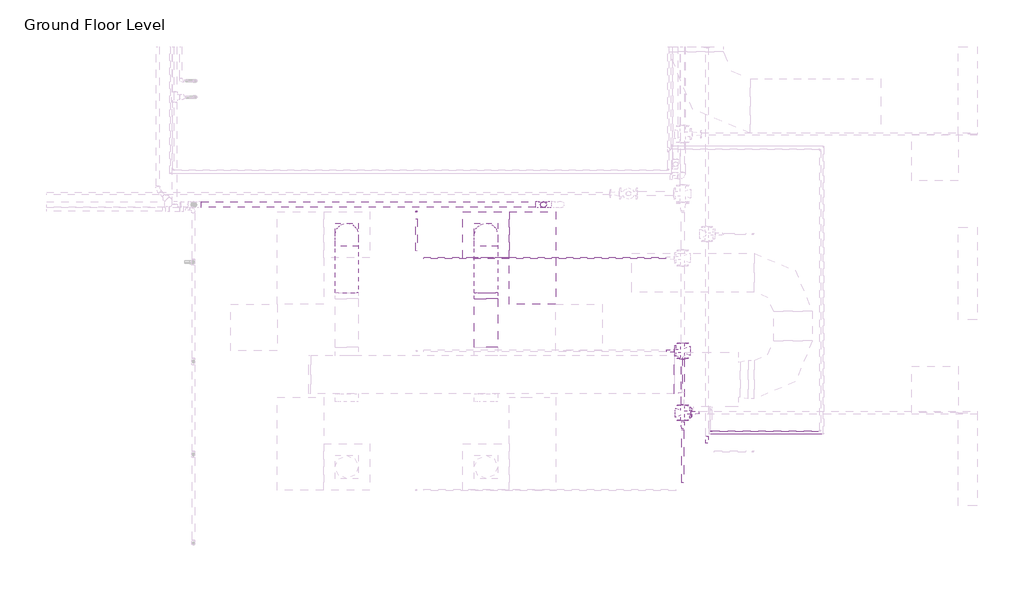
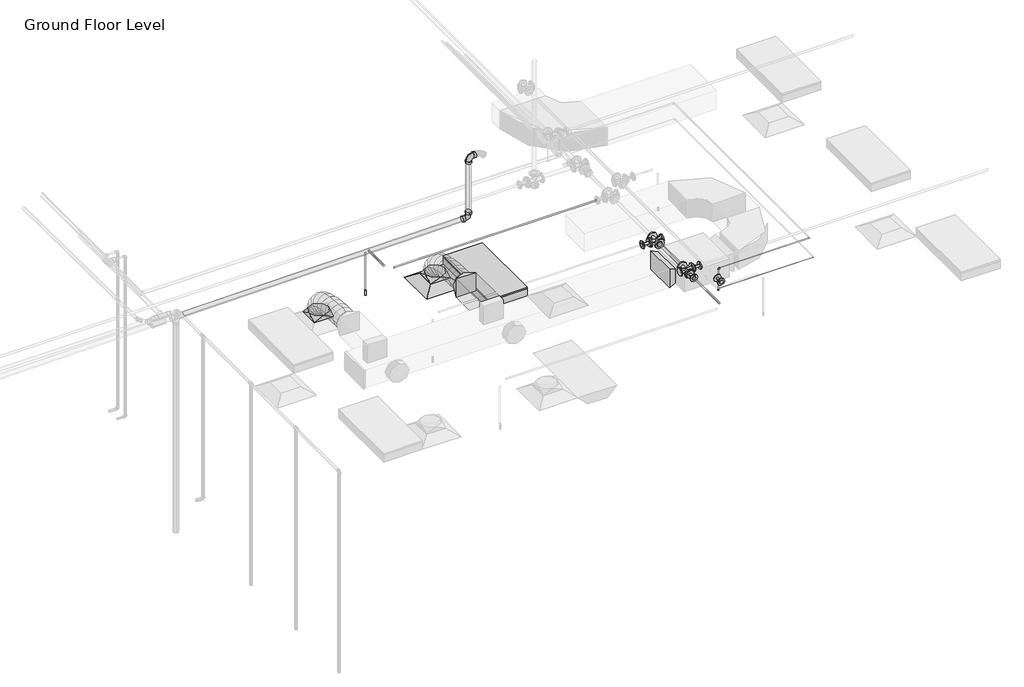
# One storey, part 15 of 75: 10 pipe fittings, 10 pipe segments, 4 duct fittings, 3 duct segments, 1 air terminal, 1 fire suppression terminal, 1 light fixture.
"""IFC4 building model written with IfcOpenShell, lengths in millimetres."""

from ifc_helpers import new_model, si_unit, point, frame, frame_2d, origin, place, context, project, spatial, polyline, circle_curve, ellipse_curve, trimmed, segment, composite_curve, outline, extrude, transform, mapped, element, save
from ifc_brep_helpers import plane_surface, cylinder_surface, advanced_brep
from components import m_return_diffuser_600_x_600_face_300_x_300_connection_ff221211, m_rectangular_transition_angle_45_degree_2b595dfe, m_rectangular_to_round_transition_angle_45_degree_641efff0, m_sprinkler_dry_pendent_hosted_15_mm_dry_pendent_9bda8e11, m_troffer_light_parabolic_rectangular1_0600x1200mm_4_lamp_86473d4a, m_bend_pvc_sch_40_dwv_standard_0eeb11e1, m_bend_pvc_sch_40_dwv_standard_cec44c9e, m_elbow_generic_standard_a088f956, m_reducer_flanged_cs_class_150_standard_b6b67c23, m_reducer_flanged_cs_class_150_standard_ccf252ad, m_reducer_flanged_cs_class_150_standard_cc2a7c1d, m_reducer_flanged_cs_class_150_standard_678fb8eb, m_tee_round_base_flanged_cs_class_150_standard_9c9133d0

model = new_model("IFC4")

# Units and contexts
model_context = context("Model", 3, world=origin())
ifc_project = project(units=[si_unit("LENGTHUNIT", "METRE", prefix="MILLI")], contexts=[model_context])

# Site, building, storey
site = spatial("IfcSite", under=ifc_project)
building = spatial("IfcBuilding", under=site)
storey = spatial("IfcBuildingStorey", under=building, Name="Ground Floor Level", Elevation=900.0)

# Air terminal
placement = place(None, origin())
m_return_diffuser_600_x_600_face_300_x_300_connection_shape = m_return_diffuser_600_x_600_face_300_x_300_connection_ff221211(model_context)
element("IfcAirTerminal", 1, ObjectType="M_Supply Diffuser : 600 x 600 Face 300 x 300 Connection", at=placement, inside=storey, context=model_context, shape_type="MappedRepresentation", body=[
    mapped(m_return_diffuser_600_x_600_face_300_x_300_connection_shape, transform((3142.7672394, -36564.7846466, 3650.0), x_axis=(1.0, 0.0, 0.0), y_axis=(0.0, 1.0, 0.0), z_axis=(0.0, 0.0, 1.0))),
])

# Duct fittings
m_rectangular_transition_angle_45_degree_shape = m_rectangular_transition_angle_45_degree_2b595dfe(model_context)
element("IfcDuctFitting", 2, ObjectType="M_Rectangular Transition - Angle : 45 Degree", at=placement, inside=storey, context=model_context, shape_type="MappedRepresentation", body=[
    mapped(m_rectangular_transition_angle_45_degree_shape, transform((5677.3672394, -38372.6128682, 4100.0), x_axis=(-1.0, 0.0, 0.0), y_axis=(0.0, -1.0, 0.0), z_axis=(0.0, 0.0, 1.0))),
])
m_rectangular_to_round_transition_angle_45_degree_shape = m_rectangular_to_round_transition_angle_45_degree_641efff0(model_context)
element("IfcDuctFitting", 3, ObjectType="M_Rectangular to Round Transition - Angle : 45 Degree", at=placement, inside=storey, context=model_context, shape_type="MappedRepresentation", body=[
    mapped(m_rectangular_to_round_transition_angle_45_degree_shape, transform((3142.7672394, -36564.7846466, 3751.6), x_axis=(0.0, 0.0, 1.0), y_axis=(-1.0, 0.0, 0.0), z_axis=(0.0, -1.0, 0.0))),
])
element("IfcDuctFitting", 4, ObjectType="M_Rectangular to Round Transition - Angle : 45 Degree", at=placement, inside=storey, context=model_context, shape_type="MappedRepresentation", body=[
    mapped(m_rectangular_to_round_transition_angle_45_degree_shape, transform((3142.7672394, -37392.1205779, 4100.0), x_axis=(0.0, 1.0, 0.0), y_axis=(-1.0, 0.0, 0.0), z_axis=(0.0, 0.0, 1.0))),
])
element("IfcDuctFitting", 5, ObjectType="M_Rectangular to Round Transition - Angle : 45 Degree", at=placement, inside=storey, context=model_context, shape_type="MappedRepresentation", body=[
    mapped(m_rectangular_to_round_transition_angle_45_degree_shape, transform((1342.7672394, -36564.7846466, 3751.6), x_axis=(0.0, 0.0, 1.0), y_axis=(-1.0, 0.0, 0.0), z_axis=(0.0, -1.0, 0.0))),
])

# Duct segments
element("IfcDuctSegment", 6, ObjectType="Flex - Round", at=placement, inside=storey, context=model_context, shape_type="AdvancedBrep", body=[
    advanced_brep(
    [(3292.7672394, -36564.7846466, 3826.6), (3142.7672394, -36714.7846466, 3826.6), (2992.7672394, -36564.7846466, 3826.6), (3142.7672394, -36414.7846466, 3826.6), (3292.7672394, -36564.7846466, 3857.9377114), (3142.7672394, -36714.7846466, 3832.2944892), (2992.7672394, -36564.7846466, 3857.9377114), (3142.7672394, -36414.7846466, 3883.5809337), (3292.7672394, -36581.8005792, 3906.2505728), (3142.7672394, -36715.5385581, 3834.435049), (2992.7672394, -36581.8005792, 3906.2505728), (3142.7672394, -36448.0626002, 3978.0660967), (3292.7672394, -36628.9844595, 3968.7113131), (3142.7672394, -36733.1903588, 3857.8020236), (2992.7672394, -36628.9844595, 3968.7113131), (3142.7672394, -36524.7785603, 4079.6206026), (3292.7672394, -36700.5404117, 4016.0700639), (3142.7672394, -36769.4744673, 3881.8163788), (2992.7672394, -36700.5404117, 4016.0700639), (3142.7672394, -36631.6063561, 4150.3237489), (3292.7672394, -36790.6725597, 4050.4146682), (3142.7672394, -36834.2333229, 3906.4925606), (2992.7672394, -36790.6725597, 4050.4146682), (3142.7672394, -36747.1117965, 4194.3367758), (3292.7672394, -36893.5850275, 4073.8329691), (3142.7672394, -36920.1459515, 3926.0424542), (2992.7672394, -36893.5850275, 4073.8329691), (3142.7672394, -36867.0241035, 4221.6234841), (3292.7672394, -37003.4819393, 4088.4128097), (3142.7672394, -37018.6328416, 3939.1085462), (2992.7672394, -37003.4819393, 4088.4128097), (3142.7672394, -36988.3310369, 4237.7170733), (3292.7672394, -37114.5674189, 4096.242033), (3142.7672394, -37122.0727471, 3946.398915), (2992.7672394, -37114.5674189, 4096.242033), (3142.7672394, -37107.0620907, 4246.085151), (3292.7672394, -37221.0455904, 4099.4084821), (3142.7672394, -37223.7370835, 3949.4222102), (2992.7672394, -37221.0455904, 4099.4084821), (3142.7672394, -37218.3540973, 4249.394754), (3292.7672394, -37317.1205779, 4100.0), (3142.7672394, -37316.1970701, 4249.9971571), (2992.7672394, -37317.1205779, 4100.0), (3142.7672394, -37318.0440857, 3950.0028429)],
    [
        (0, 1, circle_curve(frame((3142.7672394, -36564.7846466, 3826.6), z_axis=(0.0, 0.0, -1.0), x_axis=(1.0, 0.0, 0.0)), 150.0)),
        (1, 2, circle_curve(frame((3142.7672394, -36564.7846466, 3826.6), z_axis=(0.0, 0.0, -1.0), x_axis=(1.0, 0.0, 0.0)), 150.0)),
        (2, 3, circle_curve(frame((3142.7672394, -36564.7846466, 3826.6), z_axis=(0.0, 0.0, -1.0), x_axis=(1.0, 0.0, 0.0)), 150.0)),
        (3, 0, circle_curve(frame((3142.7672394, -36564.7846466, 3826.6), z_axis=(0.0, 0.0, -1.0), x_axis=(1.0, 0.0, 0.0)), 150.0)),
        (0, 4),
        (4, 5, ellipse_curve(frame((3142.7672394, -36564.7846466, 3857.9377114), z_axis=(0.0, 0.16851014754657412, -0.9856999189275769), x_axis=(0.0, -0.9856999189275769, -0.16851014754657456)), 152.176131, 150.0)),
        (5, 1),
        (5, 6, ellipse_curve(frame((3142.7672394, -36564.7846466, 3857.9377114), z_axis=(0.0, 0.16851014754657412, -0.9856999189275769), x_axis=(0.0, -0.9856999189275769, -0.16851014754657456)), 152.176131, 150.0)),
        (6, 2),
        (6, 7, ellipse_curve(frame((3142.7672394, -36564.7846466, 3857.9377114), z_axis=(0.0, 0.16851014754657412, -0.9856999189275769), x_axis=(0.0, -0.9856999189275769, -0.16851014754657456)), 152.176131, 150.0)),
        (7, 3),
        (7, 4, ellipse_curve(frame((3142.7672394, -36564.7846466, 3857.9377114), z_axis=(0.0, 0.16851014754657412, -0.9856999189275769), x_axis=(0.0, -0.9856999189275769, -0.16851014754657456)), 152.176131, 150.0)),
        (4, 8),
        (8, 9, ellipse_curve(frame((3142.7672394, -36581.8005792, 3906.2505728), z_axis=(0.0, 0.47309225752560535, -0.881012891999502), x_axis=(0.0, -0.8810128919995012, -0.473092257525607)), 151.8002519, 150.0)),
        (9, 5),
        (9, 10, ellipse_curve(frame((3142.7672394, -36581.8005792, 3906.2505728), z_axis=(0.0, 0.47309225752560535, -0.881012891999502), x_axis=(0.0, -0.8810128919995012, -0.473092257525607)), 151.8002519, 150.0)),
        (10, 6),
        (10, 11, ellipse_curve(frame((3142.7672394, -36581.8005792, 3906.2505728), z_axis=(0.0, 0.47309225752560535, -0.881012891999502), x_axis=(0.0, -0.8810128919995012, -0.473092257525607)), 151.8002519, 150.0)),
        (11, 7),
        (11, 8, ellipse_curve(frame((3142.7672394, -36581.8005792, 3906.2505728), z_axis=(0.0, 0.47309225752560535, -0.881012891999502), x_axis=(0.0, -0.8810128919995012, -0.473092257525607)), 151.8002519, 150.0)),
        (8, 12),
        (12, 13, ellipse_curve(frame((3142.7672394, -36628.9844595, 3968.7113131), z_axis=(0.0, 0.7287877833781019, -0.6847396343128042), x_axis=(0.0, -0.6847396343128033, -0.7287877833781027)), 152.1832446, 150.0)),
        (13, 9),
        (13, 14, ellipse_curve(frame((3142.7672394, -36628.9844595, 3968.7113131), z_axis=(0.0, 0.7287877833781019, -0.6847396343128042), x_axis=(0.0, -0.6847396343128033, -0.7287877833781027)), 152.1832446, 150.0)),
        (14, 10),
        (14, 15, ellipse_curve(frame((3142.7672394, -36628.9844595, 3968.7113131), z_axis=(0.0, 0.7287877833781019, -0.6847396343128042), x_axis=(0.0, -0.6847396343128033, -0.7287877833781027)), 152.1832446, 150.0)),
        (15, 11),
        (15, 12, ellipse_curve(frame((3142.7672394, -36628.9844595, 3968.7113131), z_axis=(0.0, 0.7287877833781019, -0.6847396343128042), x_axis=(0.0, -0.6847396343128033, -0.7287877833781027)), 152.1832446, 150.0)),
        (12, 16),
        (16, 17, ellipse_curve(frame((3142.7672394, -36700.5404117, 4016.0700639), z_axis=(0.0, 0.8895859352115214, -0.45676784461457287), x_axis=(0.0, -0.4567678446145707, -0.8895859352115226)), 150.91705, 150.0)),
        (17, 13),
        (17, 18, ellipse_curve(frame((3142.7672394, -36700.5404117, 4016.0700639), z_axis=(0.0, 0.8895859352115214, -0.45676784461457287), x_axis=(0.0, -0.4567678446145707, -0.8895859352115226)), 150.91705, 150.0)),
        (18, 14),
        (18, 19, ellipse_curve(frame((3142.7672394, -36700.5404117, 4016.0700639), z_axis=(0.0, 0.8895859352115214, -0.45676784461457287), x_axis=(0.0, -0.4567678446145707, -0.8895859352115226)), 150.91705, 150.0)),
        (19, 15),
        (19, 16, ellipse_curve(frame((3142.7672394, -36700.5404117, 4016.0700639), z_axis=(0.0, 0.8895859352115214, -0.45676784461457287), x_axis=(0.0, -0.4567678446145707, -0.8895859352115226)), 150.91705, 150.0)),
        (16, 20),
        (20, 21, ellipse_curve(frame((3142.7672394, -36790.6725597, 4050.4146682), z_axis=(0.0, 0.9571203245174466, -0.28969067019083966), x_axis=(0.0, -0.2896906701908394, -0.9571203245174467)), 150.369921, 150.0)),
        (21, 17),
        (21, 22, ellipse_curve(frame((3142.7672394, -36790.6725597, 4050.4146682), z_axis=(0.0, 0.9571203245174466, -0.28969067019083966), x_axis=(0.0, -0.2896906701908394, -0.9571203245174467)), 150.369921, 150.0)),
        (22, 18),
        (22, 23, ellipse_curve(frame((3142.7672394, -36790.6725597, 4050.4146682), z_axis=(0.0, 0.9571203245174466, -0.28969067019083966), x_axis=(0.0, -0.2896906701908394, -0.9571203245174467)), 150.369921, 150.0)),
        (23, 19),
        (23, 20, ellipse_curve(frame((3142.7672394, -36790.6725597, 4050.4146682), z_axis=(0.0, 0.9571203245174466, -0.28969067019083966), x_axis=(0.0, -0.2896906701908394, -0.9571203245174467)), 150.369921, 150.0)),
        (20, 24),
        (24, 25, ellipse_curve(frame((3142.7672394, -36893.5850275, 4073.8329691), z_axis=(0.0, 0.9842313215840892, -0.17688613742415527), x_axis=(0.0, -0.17688613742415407, -0.9842313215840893)), 150.1583131, 150.0)),
        (25, 21),
        (25, 26, ellipse_curve(frame((3142.7672394, -36893.5850275, 4073.8329691), z_axis=(0.0, 0.9842313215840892, -0.17688613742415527), x_axis=(0.0, -0.17688613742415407, -0.9842313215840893)), 150.1583131, 150.0)),
        (26, 22),
        (26, 27, ellipse_curve(frame((3142.7672394, -36893.5850275, 4073.8329691), z_axis=(0.0, 0.9842313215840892, -0.17688613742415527), x_axis=(0.0, -0.17688613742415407, -0.9842313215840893)), 150.1583131, 150.0)),
        (27, 23),
        (27, 24, ellipse_curve(frame((3142.7672394, -36893.5850275, 4073.8329691), z_axis=(0.0, 0.9842313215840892, -0.17688613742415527), x_axis=(0.0, -0.17688613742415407, -0.9842313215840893)), 150.1583131, 150.0)),
        (24, 28),
        (28, 29, ellipse_curve(frame((3142.7672394, -37003.4819393, 4088.4128097), z_axis=(0.0, 0.9948906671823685, -0.10095821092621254), x_axis=(0.0, -0.10095821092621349, -0.9948906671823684)), 150.0710264, 150.0)),
        (29, 25),
        (29, 30, ellipse_curve(frame((3142.7672394, -37003.4819393, 4088.4128097), z_axis=(0.0, 0.9948906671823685, -0.10095821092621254), x_axis=(0.0, -0.10095821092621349, -0.9948906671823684)), 150.0710264, 150.0)),
        (30, 26),
        (30, 31, ellipse_curve(frame((3142.7672394, -37003.4819393, 4088.4128097), z_axis=(0.0, 0.9948906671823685, -0.10095821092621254), x_axis=(0.0, -0.10095821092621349, -0.9948906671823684)), 150.0710264, 150.0)),
        (31, 27),
        (31, 28, ellipse_curve(frame((3142.7672394, -37003.4819393, 4088.4128097), z_axis=(0.0, 0.9948906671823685, -0.10095821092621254), x_axis=(0.0, -0.10095821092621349, -0.9948906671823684)), 150.0710264, 150.0)),
        (28, 32),
        (32, 33, ellipse_curve(frame((3142.7672394, -37114.5674189, 4096.242033), z_axis=(0.0, 0.9987479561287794, -0.05002519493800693), x_axis=(0.0, -0.05002519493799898, -0.99874795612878)), 150.0309634, 150.0)),
        (33, 29),
        (33, 34, ellipse_curve(frame((3142.7672394, -37114.5674189, 4096.242033), z_axis=(0.0, 0.9987479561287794, -0.05002519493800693), x_axis=(0.0, -0.05002519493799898, -0.99874795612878)), 150.0309634, 150.0)),
        (34, 30),
        (34, 35, ellipse_curve(frame((3142.7672394, -37114.5674189, 4096.242033), z_axis=(0.0, 0.9987479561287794, -0.05002519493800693), x_axis=(0.0, -0.05002519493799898, -0.99874795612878)), 150.0309634, 150.0)),
        (35, 31),
        (35, 32, ellipse_curve(frame((3142.7672394, -37114.5674189, 4096.242033), z_axis=(0.0, 0.9987479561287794, -0.05002519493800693), x_axis=(0.0, -0.05002519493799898, -0.99874795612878)), 150.0309634, 150.0)),
        (32, 36),
        (36, 37, ellipse_curve(frame((3142.7672394, -37221.0455904, 4099.4084821), z_axis=(0.0, 0.999839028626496, -0.01794204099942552), x_axis=(0.0, -0.01794204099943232, -0.9998390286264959)), 150.0104193, 150.0)),
        (37, 33),
        (37, 38, ellipse_curve(frame((3142.7672394, -37221.0455904, 4099.4084821), z_axis=(0.0, 0.999839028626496, -0.01794204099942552), x_axis=(0.0, -0.01794204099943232, -0.9998390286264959)), 150.0104193, 150.0)),
        (38, 34),
        (38, 39, ellipse_curve(frame((3142.7672394, -37221.0455904, 4099.4084821), z_axis=(0.0, 0.999839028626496, -0.01794204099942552), x_axis=(0.0, -0.01794204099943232, -0.9998390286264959)), 150.0104193, 150.0)),
        (39, 35),
        (39, 36, ellipse_curve(frame((3142.7672394, -37221.0455904, 4099.4084821), z_axis=(0.0, 0.999839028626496, -0.01794204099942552), x_axis=(0.0, -0.01794204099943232, -0.9998390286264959)), 150.0104193, 150.0)),
        (40, 41, circle_curve(frame((3142.7672394, -37317.1205779, 4100.0), z_axis=(0.0, -0.9999810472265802, 0.006156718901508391), x_axis=(1.0, 0.0, 0.0)), 150.0)),
        (41, 42, circle_curve(frame((3142.7672394, -37317.1205779, 4100.0), z_axis=(0.0, -0.9999810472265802, 0.006156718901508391), x_axis=(1.0, 0.0, 0.0)), 150.0)),
        (42, 43, circle_curve(frame((3142.7672394, -37317.1205779, 4100.0), z_axis=(0.0, -0.9999810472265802, 0.006156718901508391), x_axis=(1.0, 0.0, 0.0)), 150.0)),
        (43, 40, circle_curve(frame((3142.7672394, -37317.1205779, 4100.0), z_axis=(0.0, -0.9999810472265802, 0.006156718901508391), x_axis=(1.0, 0.0, 0.0)), 150.0)),
        (36, 40),
        (43, 37),
        (42, 38),
        (41, 39),
    ],
    [
        plane_surface(frame((3142.7672394, -36714.7846466, 3826.6), z_axis=(0.0, 0.0, -1.0), x_axis=(1.0, 0.0, 0.0))),
        cylinder_surface(frame((3142.7672394, -36564.7846466, 3826.6), z_axis=(0.0, 0.0, -1.0), x_axis=(1.0, 0.0, 0.0)), 150.0),
        cylinder_surface(frame((3142.7672394, -36564.7846466, 3857.9377114), z_axis=(0.0, 0.3322008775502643, -0.9432086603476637), x_axis=(1.0, 0.0, 0.0)), 150.0),
        cylinder_surface(frame((3142.7672394, -36581.8005792, 3906.2505728), z_axis=(0.0, 0.6027625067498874, -0.7979206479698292), x_axis=(1.0, 0.0, 0.0)), 150.0),
        cylinder_surface(frame((3142.7672394, -36628.9844595, 3968.7113131), z_axis=(0.0, 0.8339024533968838, -0.5519118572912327), x_axis=(1.0, 0.0, 0.0)), 150.0),
        cylinder_surface(frame((3142.7672394, -36700.5404117, 4016.0700639), z_axis=(0.0, 0.9344582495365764, -0.3560727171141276), x_axis=(1.0, 0.0, 0.0)), 150.0),
        cylinder_surface(frame((3142.7672394, -36790.6725597, 4050.4146682), z_axis=(0.0, 0.9750732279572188, -0.22188330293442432), x_axis=(1.0, 0.0, 0.0)), 150.0),
        cylinder_surface(frame((3142.7672394, -36893.5850275, 4073.8329691), z_axis=(0.0, 0.991314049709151, -0.13151598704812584), x_axis=(1.0, 0.0, 0.0)), 150.0),
        cylinder_surface(frame((3142.7672394, -37003.4819393, 4088.4128097), z_axis=(0.0, 0.9975255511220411, -0.07030487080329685), x_axis=(1.0, 0.0, 0.0)), 150.0),
        cylinder_surface(frame((3142.7672394, -37114.5674189, 4096.242033), z_axis=(0.0, 0.9995581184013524, -0.029724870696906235), x_axis=(1.0, 0.0, 0.0)), 150.0),
        plane_surface(frame((3142.7672394, -37318.0440857, 3950.0028429), z_axis=(0.0, -0.9999810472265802, 0.006156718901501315), x_axis=(1.0, 0.0, 0.0))),
        cylinder_surface(frame((3142.7672394, -37221.0455904, 4099.4084821), z_axis=(0.0, 0.9999810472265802, -0.006156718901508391), x_axis=(1.0, 0.0, 0.0)), 150.0),
    ],
    [
        (0, [[1, 2, 3, 4]]),
        (1, [[-1, 5, 6, 7]]),
        (1, [[-2, -7, 8, 9]]),
        (1, [[-3, -9, 10, 11]]),
        (1, [[-4, -11, 12, -5]]),
        (2, [[-6, 13, 14, 15]]),
        (2, [[-8, -15, 16, 17]]),
        (2, [[-10, -17, 18, 19]]),
        (2, [[-12, -19, 20, -13]]),
        (3, [[-14, 21, 22, 23]]),
        (3, [[-16, -23, 24, 25]]),
        (3, [[-18, -25, 26, 27]]),
        (3, [[-20, -27, 28, -21]]),
        (4, [[-22, 29, 30, 31]]),
        (4, [[-24, -31, 32, 33]]),
        (4, [[-26, -33, 34, 35]]),
        (4, [[-28, -35, 36, -29]]),
        (5, [[-30, 37, 38, 39]]),
        (5, [[-32, -39, 40, 41]]),
        (5, [[-34, -41, 42, 43]]),
        (5, [[-36, -43, 44, -37]]),
        (6, [[-38, 45, 46, 47]]),
        (6, [[-40, -47, 48, 49]]),
        (6, [[-42, -49, 50, 51]]),
        (6, [[-44, -51, 52, -45]]),
        (7, [[-46, 53, 54, 55]]),
        (7, [[-48, -55, 56, 57]]),
        (7, [[-50, -57, 58, 59]]),
        (7, [[-52, -59, 60, -53]]),
        (8, [[-54, 61, 62, 63]]),
        (8, [[-56, -63, 64, 65]]),
        (8, [[-58, -65, 66, 67]]),
        (8, [[-60, -67, 68, -61]]),
        (9, [[-62, 69, 70, 71]]),
        (9, [[-64, -71, 72, 73]]),
        (9, [[-66, -73, 74, 75]]),
        (9, [[-68, -75, 76, -69]]),
        (10, [[77, 78, 79, 80]]),
        (11, [[-70, 81, -80, 82]]),
        (11, [[-72, -82, -79, 83]]),
        (11, [[-74, -83, -78, 84]]),
        (11, [[-76, -84, -77, -81]]),
    ],
),
])
element("IfcDuctSegment", 7, ObjectType="Flex - Round", at=placement, inside=storey, context=model_context, shape_type="AdvancedBrep", body=[
    advanced_brep(
    [(1492.7672394, -36564.7846466, 3826.6), (1342.7672394, -36714.7846466, 3826.6), (1192.7672394, -36564.7846466, 3826.6), (1342.7672394, -36414.7846466, 3826.6), (1492.7672394, -36564.7846466, 3857.9377114), (1342.7672394, -36714.7846466, 3832.2944892), (1192.7672394, -36564.7846466, 3857.9377114), (1342.7672394, -36414.7846466, 3883.5809337), (1492.7672394, -36581.8005792, 3906.2505728), (1342.7672394, -36715.5385581, 3834.435049), (1192.7672394, -36581.8005792, 3906.2505728), (1342.7672394, -36448.0626002, 3978.0660967), (1492.7672394, -36628.9844595, 3968.7113131), (1342.7672394, -36733.1903588, 3857.8020236), (1192.7672394, -36628.9844595, 3968.7113131), (1342.7672394, -36524.7785603, 4079.6206026), (1492.7672394, -36700.5404117, 4016.0700639), (1342.7672394, -36769.4744673, 3881.8163788), (1192.7672394, -36700.5404117, 4016.0700639), (1342.7672394, -36631.6063561, 4150.3237489), (1492.7672394, -36790.6725597, 4050.4146682), (1342.7672394, -36834.2333229, 3906.4925606), (1192.7672394, -36790.6725597, 4050.4146682), (1342.7672394, -36747.1117965, 4194.3367758), (1492.7672394, -36893.5850275, 4073.8329691), (1342.7672394, -36920.1459515, 3926.0424542), (1192.7672394, -36893.5850275, 4073.8329691), (1342.7672394, -36867.0241035, 4221.6234841), (1492.7672394, -37003.4819393, 4088.4128097), (1342.7672394, -37018.6328416, 3939.1085462), (1192.7672394, -37003.4819393, 4088.4128097), (1342.7672394, -36988.3310369, 4237.7170733), (1492.7672394, -37114.5674189, 4096.242033), (1342.7672394, -37122.0727471, 3946.398915), (1192.7672394, -37114.5674189, 4096.242033), (1342.7672394, -37107.0620907, 4246.085151), (1492.7672394, -37221.0455904, 4099.4084821), (1342.7672394, -37223.7370835, 3949.4222102), (1192.7672394, -37221.0455904, 4099.4084821), (1342.7672394, -37218.3540973, 4249.394754), (1492.7672394, -37317.1205779, 4100.0), (1342.7672394, -37316.1970701, 4249.9971571), (1192.7672394, -37317.1205779, 4100.0), (1342.7672394, -37318.0440857, 3950.0028429)],
    [
        (0, 1, circle_curve(frame((1342.7672394, -36564.7846466, 3826.6), z_axis=(0.0, 0.0, -1.0), x_axis=(1.0, 0.0, 0.0)), 150.0)),
        (1, 2, circle_curve(frame((1342.7672394, -36564.7846466, 3826.6), z_axis=(0.0, 0.0, -1.0), x_axis=(1.0, 0.0, 0.0)), 150.0)),
        (2, 3, circle_curve(frame((1342.7672394, -36564.7846466, 3826.6), z_axis=(0.0, 0.0, -1.0), x_axis=(1.0, 0.0, 0.0)), 150.0)),
        (3, 0, circle_curve(frame((1342.7672394, -36564.7846466, 3826.6), z_axis=(0.0, 0.0, -1.0), x_axis=(1.0, 0.0, 0.0)), 150.0)),
        (0, 4),
        (4, 5, ellipse_curve(frame((1342.7672394, -36564.7846466, 3857.9377114), z_axis=(0.0, 0.16851014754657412, -0.9856999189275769), x_axis=(0.0, -0.9856999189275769, -0.16851014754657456)), 152.176131, 150.0)),
        (5, 1),
        (5, 6, ellipse_curve(frame((1342.7672394, -36564.7846466, 3857.9377114), z_axis=(0.0, 0.16851014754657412, -0.9856999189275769), x_axis=(0.0, -0.9856999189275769, -0.16851014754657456)), 152.176131, 150.0)),
        (6, 2),
        (6, 7, ellipse_curve(frame((1342.7672394, -36564.7846466, 3857.9377114), z_axis=(0.0, 0.16851014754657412, -0.9856999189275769), x_axis=(0.0, -0.9856999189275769, -0.16851014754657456)), 152.176131, 150.0)),
        (7, 3),
        (7, 4, ellipse_curve(frame((1342.7672394, -36564.7846466, 3857.9377114), z_axis=(0.0, 0.16851014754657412, -0.9856999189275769), x_axis=(0.0, -0.9856999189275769, -0.16851014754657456)), 152.176131, 150.0)),
        (4, 8),
        (8, 9, ellipse_curve(frame((1342.7672394, -36581.8005792, 3906.2505728), z_axis=(0.0, 0.47309225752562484, -0.8810128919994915), x_axis=(0.0, -0.8810128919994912, -0.4730922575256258)), 151.8002519, 150.0)),
        (9, 5),
        (9, 10, ellipse_curve(frame((1342.7672394, -36581.8005792, 3906.2505728), z_axis=(0.0, 0.47309225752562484, -0.8810128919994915), x_axis=(0.0, -0.8810128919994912, -0.4730922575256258)), 151.8002519, 150.0)),
        (10, 6),
        (10, 11, ellipse_curve(frame((1342.7672394, -36581.8005792, 3906.2505728), z_axis=(0.0, 0.47309225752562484, -0.8810128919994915), x_axis=(0.0, -0.8810128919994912, -0.4730922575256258)), 151.8002519, 150.0)),
        (11, 7),
        (11, 8, ellipse_curve(frame((1342.7672394, -36581.8005792, 3906.2505728), z_axis=(0.0, 0.47309225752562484, -0.8810128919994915), x_axis=(0.0, -0.8810128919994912, -0.4730922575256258)), 151.8002519, 150.0)),
        (8, 12),
        (12, 13, ellipse_curve(frame((1342.7672394, -36628.9844595, 3968.7113131), z_axis=(0.0, 0.7287877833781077, -0.6847396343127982), x_axis=(0.0, -0.6847396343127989, -0.7287877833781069)), 152.1832446, 150.0)),
        (13, 9),
        (13, 14, ellipse_curve(frame((1342.7672394, -36628.9844595, 3968.7113131), z_axis=(0.0, 0.7287877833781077, -0.6847396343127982), x_axis=(0.0, -0.6847396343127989, -0.7287877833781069)), 152.1832446, 150.0)),
        (14, 10),
        (14, 15, ellipse_curve(frame((1342.7672394, -36628.9844595, 3968.7113131), z_axis=(0.0, 0.7287877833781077, -0.6847396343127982), x_axis=(0.0, -0.6847396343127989, -0.7287877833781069)), 152.1832446, 150.0)),
        (15, 11),
        (15, 12, ellipse_curve(frame((1342.7672394, -36628.9844595, 3968.7113131), z_axis=(0.0, 0.7287877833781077, -0.6847396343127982), x_axis=(0.0, -0.6847396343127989, -0.7287877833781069)), 152.1832446, 150.0)),
        (12, 16),
        (16, 17, ellipse_curve(frame((1342.7672394, -36700.5404117, 4016.0700639), z_axis=(0.0, 0.8895859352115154, -0.45676784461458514), x_axis=(0.0, -0.45676784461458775, -0.8895859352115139)), 150.91705, 150.0)),
        (17, 13),
        (17, 18, ellipse_curve(frame((1342.7672394, -36700.5404117, 4016.0700639), z_axis=(0.0, 0.8895859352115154, -0.45676784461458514), x_axis=(0.0, -0.45676784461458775, -0.8895859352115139)), 150.91705, 150.0)),
        (18, 14),
        (18, 19, ellipse_curve(frame((1342.7672394, -36700.5404117, 4016.0700639), z_axis=(0.0, 0.8895859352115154, -0.45676784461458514), x_axis=(0.0, -0.45676784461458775, -0.8895859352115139)), 150.91705, 150.0)),
        (19, 15),
        (19, 16, ellipse_curve(frame((1342.7672394, -36700.5404117, 4016.0700639), z_axis=(0.0, 0.8895859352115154, -0.45676784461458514), x_axis=(0.0, -0.45676784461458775, -0.8895859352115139)), 150.91705, 150.0)),
        (16, 20),
        (20, 21, ellipse_curve(frame((1342.7672394, -36790.6725597, 4050.4146682), z_axis=(0.0, 0.957120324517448, -0.28969067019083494), x_axis=(0.0, -0.28969067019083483, -0.9571203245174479)), 150.369921, 150.0)),
        (21, 17),
        (21, 22, ellipse_curve(frame((1342.7672394, -36790.6725597, 4050.4146682), z_axis=(0.0, 0.957120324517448, -0.28969067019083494), x_axis=(0.0, -0.28969067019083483, -0.9571203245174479)), 150.369921, 150.0)),
        (22, 18),
        (22, 23, ellipse_curve(frame((1342.7672394, -36790.6725597, 4050.4146682), z_axis=(0.0, 0.957120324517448, -0.28969067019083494), x_axis=(0.0, -0.28969067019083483, -0.9571203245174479)), 150.369921, 150.0)),
        (23, 19),
        (23, 20, ellipse_curve(frame((1342.7672394, -36790.6725597, 4050.4146682), z_axis=(0.0, 0.957120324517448, -0.28969067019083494), x_axis=(0.0, -0.28969067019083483, -0.9571203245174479)), 150.369921, 150.0)),
        (20, 24),
        (24, 25, ellipse_curve(frame((1342.7672394, -36893.5850275, 4073.8329691), z_axis=(0.0, 0.9842313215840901, -0.17688613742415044), x_axis=(0.0, -0.1768861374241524, -0.9842313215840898)), 150.1583131, 150.0)),
        (25, 21),
        (25, 26, ellipse_curve(frame((1342.7672394, -36893.5850275, 4073.8329691), z_axis=(0.0, 0.9842313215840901, -0.17688613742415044), x_axis=(0.0, -0.1768861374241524, -0.9842313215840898)), 150.1583131, 150.0)),
        (26, 22),
        (26, 27, ellipse_curve(frame((1342.7672394, -36893.5850275, 4073.8329691), z_axis=(0.0, 0.9842313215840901, -0.17688613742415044), x_axis=(0.0, -0.1768861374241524, -0.9842313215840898)), 150.1583131, 150.0)),
        (27, 23),
        (27, 24, ellipse_curve(frame((1342.7672394, -36893.5850275, 4073.8329691), z_axis=(0.0, 0.9842313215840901, -0.17688613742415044), x_axis=(0.0, -0.1768861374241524, -0.9842313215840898)), 150.1583131, 150.0)),
        (24, 28),
        (28, 29, ellipse_curve(frame((1342.7672394, -37003.4819393, 4088.4128097), z_axis=(0.0, 0.9948906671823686, -0.10095821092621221), x_axis=(0.0, -0.10095821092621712, -0.9948906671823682)), 150.0710264, 150.0)),
        (29, 25),
        (29, 30, ellipse_curve(frame((1342.7672394, -37003.4819393, 4088.4128097), z_axis=(0.0, 0.9948906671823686, -0.10095821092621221), x_axis=(0.0, -0.10095821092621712, -0.9948906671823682)), 150.0710264, 150.0)),
        (30, 26),
        (30, 31, ellipse_curve(frame((1342.7672394, -37003.4819393, 4088.4128097), z_axis=(0.0, 0.9948906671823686, -0.10095821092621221), x_axis=(0.0, -0.10095821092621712, -0.9948906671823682)), 150.0710264, 150.0)),
        (31, 27),
        (31, 28, ellipse_curve(frame((1342.7672394, -37003.4819393, 4088.4128097), z_axis=(0.0, 0.9948906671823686, -0.10095821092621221), x_axis=(0.0, -0.10095821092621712, -0.9948906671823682)), 150.0710264, 150.0)),
        (28, 32),
        (32, 33, ellipse_curve(frame((1342.7672394, -37114.5674189, 4096.242033), z_axis=(0.0, 0.9987479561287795, -0.05002519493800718), x_axis=(0.0, -0.0500251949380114, -0.9987479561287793)), 150.0309634, 150.0)),
        (33, 29),
        (33, 34, ellipse_curve(frame((1342.7672394, -37114.5674189, 4096.242033), z_axis=(0.0, 0.9987479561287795, -0.05002519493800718), x_axis=(0.0, -0.0500251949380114, -0.9987479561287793)), 150.0309634, 150.0)),
        (34, 30),
        (34, 35, ellipse_curve(frame((1342.7672394, -37114.5674189, 4096.242033), z_axis=(0.0, 0.9987479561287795, -0.05002519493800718), x_axis=(0.0, -0.0500251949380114, -0.9987479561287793)), 150.0309634, 150.0)),
        (35, 31),
        (35, 32, ellipse_curve(frame((1342.7672394, -37114.5674189, 4096.242033), z_axis=(0.0, 0.9987479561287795, -0.05002519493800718), x_axis=(0.0, -0.0500251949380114, -0.9987479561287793)), 150.0309634, 150.0)),
        (32, 36),
        (36, 37, ellipse_curve(frame((1342.7672394, -37221.0455904, 4099.4084821), z_axis=(0.0, 0.9998390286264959, -0.017942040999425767), x_axis=(0.0, -0.017942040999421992, -0.999839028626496)), 150.0104193, 150.0)),
        (37, 33),
        (37, 38, ellipse_curve(frame((1342.7672394, -37221.0455904, 4099.4084821), z_axis=(0.0, 0.9998390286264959, -0.017942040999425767), x_axis=(0.0, -0.017942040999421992, -0.999839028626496)), 150.0104193, 150.0)),
        (38, 34),
        (38, 39, ellipse_curve(frame((1342.7672394, -37221.0455904, 4099.4084821), z_axis=(0.0, 0.9998390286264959, -0.017942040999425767), x_axis=(0.0, -0.017942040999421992, -0.999839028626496)), 150.0104193, 150.0)),
        (39, 35),
        (39, 36, ellipse_curve(frame((1342.7672394, -37221.0455904, 4099.4084821), z_axis=(0.0, 0.9998390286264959, -0.017942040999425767), x_axis=(0.0, -0.017942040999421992, -0.999839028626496)), 150.0104193, 150.0)),
        (40, 41, circle_curve(frame((1342.7672394, -37317.1205779, 4100.0), z_axis=(0.0, -0.9999810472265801, 0.006156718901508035), x_axis=(1.0, 0.0, 0.0)), 150.0)),
        (41, 42, circle_curve(frame((1342.7672394, -37317.1205779, 4100.0), z_axis=(0.0, -0.9999810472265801, 0.006156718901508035), x_axis=(1.0, 0.0, 0.0)), 150.0)),
        (42, 43, circle_curve(frame((1342.7672394, -37317.1205779, 4100.0), z_axis=(0.0, -0.9999810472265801, 0.006156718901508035), x_axis=(1.0, 0.0, 0.0)), 150.0)),
        (43, 40, circle_curve(frame((1342.7672394, -37317.1205779, 4100.0), z_axis=(0.0, -0.9999810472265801, 0.006156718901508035), x_axis=(1.0, 0.0, 0.0)), 150.0)),
        (36, 40),
        (43, 37),
        (42, 38),
        (41, 39),
    ],
    [
        plane_surface(frame((1342.7672394, -36714.7846466, 3826.6), z_axis=(0.0, 0.0, -1.0), x_axis=(1.0, 0.0, 0.0))),
        cylinder_surface(frame((1342.7672394, -36564.7846466, 3826.6), z_axis=(0.0, 0.0, -1.0), x_axis=(1.0, 0.0, 0.0)), 150.0),
        cylinder_surface(frame((1342.7672394, -36564.7846466, 3857.9377114), z_axis=(0.0, 0.3322008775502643, -0.9432086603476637), x_axis=(1.0, 0.0, 0.0)), 150.0),
        cylinder_surface(frame((1342.7672394, -36581.8005792, 3906.2505728), z_axis=(0.0, 0.6027625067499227, -0.7979206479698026), x_axis=(1.0, 0.0, 0.0)), 150.0),
        cylinder_surface(frame((1342.7672394, -36628.9844595, 3968.7113131), z_axis=(0.0, 0.8339024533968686, -0.5519118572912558), x_axis=(1.0, 0.0, 0.0)), 150.0),
        cylinder_surface(frame((1342.7672394, -36700.5404117, 4016.0700639), z_axis=(0.0, 0.9344582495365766, -0.35607271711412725), x_axis=(1.0, 0.0, 0.0)), 150.0),
        cylinder_surface(frame((1342.7672394, -36790.6725597, 4050.4146682), z_axis=(0.0, 0.975073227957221, -0.22188330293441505), x_axis=(1.0, 0.0, 0.0)), 150.0),
        cylinder_surface(frame((1342.7672394, -36893.5850275, 4073.8329691), z_axis=(0.0, 0.991314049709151, -0.13151598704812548), x_axis=(1.0, 0.0, 0.0)), 150.0),
        cylinder_surface(frame((1342.7672394, -37003.4819393, 4088.4128097), z_axis=(0.0, 0.9975255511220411, -0.07030487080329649), x_axis=(1.0, 0.0, 0.0)), 150.0),
        cylinder_surface(frame((1342.7672394, -37114.5674189, 4096.242033), z_axis=(0.0, 0.9995581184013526, -0.029724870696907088), x_axis=(1.0, 0.0, 0.0)), 150.0),
        plane_surface(frame((1342.7672394, -37318.0440857, 3950.0028429), z_axis=(0.0, -0.9999810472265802, 0.006156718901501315), x_axis=(1.0, 0.0, 0.0))),
        cylinder_surface(frame((1342.7672394, -37221.0455904, 4099.4084821), z_axis=(0.0, 0.9999810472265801, -0.006156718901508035), x_axis=(1.0, 0.0, 0.0)), 150.0),
    ],
    [
        (0, [[1, 2, 3, 4]]),
        (1, [[-1, 5, 6, 7]]),
        (1, [[-2, -7, 8, 9]]),
        (1, [[-3, -9, 10, 11]]),
        (1, [[-4, -11, 12, -5]]),
        (2, [[-6, 13, 14, 15]]),
        (2, [[-8, -15, 16, 17]]),
        (2, [[-10, -17, 18, 19]]),
        (2, [[-12, -19, 20, -13]]),
        (3, [[-14, 21, 22, 23]]),
        (3, [[-16, -23, 24, 25]]),
        (3, [[-18, -25, 26, 27]]),
        (3, [[-20, -27, 28, -21]]),
        (4, [[-22, 29, 30, 31]]),
        (4, [[-24, -31, 32, 33]]),
        (4, [[-26, -33, 34, 35]]),
        (4, [[-28, -35, 36, -29]]),
        (5, [[-30, 37, 38, 39]]),
        (5, [[-32, -39, 40, 41]]),
        (5, [[-34, -41, 42, 43]]),
        (5, [[-36, -43, 44, -37]]),
        (6, [[-38, 45, 46, 47]]),
        (6, [[-40, -47, 48, 49]]),
        (6, [[-42, -49, 50, 51]]),
        (6, [[-44, -51, 52, -45]]),
        (7, [[-46, 53, 54, 55]]),
        (7, [[-48, -55, 56, 57]]),
        (7, [[-50, -57, 58, 59]]),
        (7, [[-52, -59, 60, -53]]),
        (8, [[-54, 61, 62, 63]]),
        (8, [[-56, -63, 64, 65]]),
        (8, [[-58, -65, 66, 67]]),
        (8, [[-60, -67, 68, -61]]),
        (9, [[-62, 69, 70, 71]]),
        (9, [[-64, -71, 72, 73]]),
        (9, [[-66, -73, 74, 75]]),
        (9, [[-68, -75, 76, -69]]),
        (10, [[77, 78, 79, 80]]),
        (11, [[-70, 81, -80, 82]]),
        (11, [[-72, -82, -79, 83]]),
        (11, [[-74, -83, -78, 84]]),
        (11, [[-76, -84, -77, -81]]),
    ],
),
])
element("IfcDuctSegment", 8, ObjectType="Radius Elbows / Taps", at=placement, inside=storey, context=model_context, shape_type="SweptSolid", body=[
    extrude(outline(polyline([(3292.7672394, -38021.0128682), (2992.7672394, -38021.0128682), (2992.7672394, -37392.1205779), (3292.7672394, -37392.1205779), (3292.7672394, -38021.0128682)])), frame((0.0, 0.0, 3950.0), z_axis=(0.0, 0.0, 1.0), x_axis=(1.0, 0.0, 0.0)), (0.0, 0.0, 1.0), 300.0),
])

# Fire suppression terminal
m_sprinkler_dry_pendent_hosted_15_mm_dry_pendent_shape = m_sprinkler_dry_pendent_hosted_15_mm_dry_pendent_9bda8e11(model_context)
element("IfcFireSuppressionTerminal", 9, ObjectType="M_Sprinkler - Dry - Pendent - Hosted : 15 mm Dry Pendent", at=placement, inside=storey, context=model_context, shape_type="MappedRepresentation", body=[
    mapped(m_sprinkler_dry_pendent_hosted_15_mm_dry_pendent_shape, transform((2242.7672394, -36264.7846466, 3650.0), x_axis=(1.0, 0.0, 0.0), y_axis=(0.0, -1.0, 0.0), z_axis=(0.0, 0.0, -1.0))),
])

# Light fixture
m_troffer_light_parabolic_rectangular1_0600x1200mm_4_lamp_shape = m_troffer_light_parabolic_rectangular1_0600x1200mm_4_lamp_86473d4a(model_context)
element("IfcLightFixture", 10, ObjectType="M_Troffer Light - Parabolic Rectangular1 : 0600x1200mm(4 Lamp) - 277V 2", at=placement, inside=storey, context=model_context, shape_type="MappedRepresentation", body=[
    mapped(m_troffer_light_parabolic_rectangular1_0600x1200mm_4_lamp_shape, transform((3683.3013073, -36846.081145, 3650.0), x_axis=(0.0, 1.0, 0.0), y_axis=(-1.0, 0.0, 0.0), z_axis=(0.0, 0.0, 1.0))),
])

# Pipe fittings
m_bend_pvc_sch_40_dwv_standard_shape = m_bend_pvc_sch_40_dwv_standard_0eeb11e1(model_context)
element("IfcPipeFitting", 11, ObjectType="M_Bend - PVC - Sch 40 - DWV : Standard", at=placement, inside=storey, context=model_context, shape_type="MappedRepresentation", body=[
    mapped(m_bend_pvc_sch_40_dwv_standard_shape, transform((3884.407481, -36176.1401483, 4209.2900099), x_axis=(0.9999500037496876, 0.0, 0.009999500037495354), y_axis=(-0.009999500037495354, 0.0, 0.9999500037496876), z_axis=(0.0, -1.0, 0.0))),
])
m_bend_pvc_sch_40_dwv_standard_2_shape = m_bend_pvc_sch_40_dwv_standard_cec44c9e(model_context)
element("IfcPipeFitting", 12, ObjectType="M_Bend - PVC - Sch 40 - DWV : Standard", at=placement, inside=storey, context=model_context, shape_type="MappedRepresentation", body=[
    mapped(m_bend_pvc_sch_40_dwv_standard_2_shape, transform((3884.3964821, -36176.1401483, 5200.5901311), x_axis=(0.0, 0.0, 1.0), y_axis=(1.0, 0.0, 0.0), z_axis=(0.0, 1.0, 0.0))),
])
m_elbow_generic_standard_shape = m_elbow_generic_standard_a088f956(model_context)
element("IfcPipeFitting", 13, ObjectType="M_Elbow - Generic : Standard", at=placement, inside=storey, context=model_context, shape_type="MappedRepresentation", body=[
    mapped(m_elbow_generic_standard_shape, transform((6052.7672394, -39103.1206952, 4034.0875), x_axis=(0.0, -1.0, 0.0), y_axis=(0.0, 0.0, 1.0), z_axis=(-1.0, 0.0, 0.0))),
])
element("IfcPipeFitting", 14, ObjectType="M_Elbow - Generic : Standard", at=placement, inside=storey, context=model_context, shape_type="MappedRepresentation", body=[
    mapped(m_elbow_generic_standard_shape, transform((6052.7672394, -39103.1206952, 4390.0), x_axis=(0.0, 0.0, 1.0), y_axis=(1.0, 0.0, 0.0), z_axis=(0.0, 1.0, 0.0))),
])
m_reducer_flanged_cs_class_150_standard_shape = m_reducer_flanged_cs_class_150_standard_b6b67c23(model_context)
element("IfcPipeFitting", 15, ObjectType="M_Reducer - Flanged - CS - Class 150 : Standard", at=placement, inside=storey, context=model_context, shape_type="MappedRepresentation", body=[
    mapped(m_reducer_flanged_cs_class_150_standard_shape, transform((5790.7160832, -38864.7846466, 4347.5), x_axis=(1.0, 0.0, 0.0), y_axis=(0.0, 0.0, 1.0), z_axis=(0.0, -1.0, 0.0))),
])
m_reducer_flanged_cs_class_150_standard_2_shape = m_reducer_flanged_cs_class_150_standard_ccf252ad(model_context)
element("IfcPipeFitting", 16, ObjectType="M_Reducer - Flanged - CS - Class 150 : Standard", at=placement, inside=storey, context=model_context, shape_type="MappedRepresentation", body=[
    mapped(m_reducer_flanged_cs_class_150_standard_2_shape, transform((5997.057812, -39159.4521923, 4291.0943441), x_axis=(0.0, -1.0, 0.0), y_axis=(1.0, 0.0, 0.0), z_axis=(0.0, 0.0, 1.0))),
])
m_reducer_flanged_cs_class_150_standard_3_shape = m_reducer_flanged_cs_class_150_standard_cc2a7c1d(model_context)
element("IfcPipeFitting", 17, ObjectType="M_Reducer - Flanged - CS - Class 150 : Standard", at=placement, inside=storey, context=model_context, shape_type="MappedRepresentation", body=[
    mapped(m_reducer_flanged_cs_class_150_standard_3_shape, transform((5578.5188957, -38064.7846466, 4347.5), x_axis=(-1.0, 0.0, 0.0), y_axis=(0.0, 0.0, -1.0), z_axis=(0.0, -1.0, 0.0))),
])
m_reducer_flanged_cs_class_150_standard_4_shape = m_reducer_flanged_cs_class_150_standard_678fb8eb(model_context)
element("IfcPipeFitting", 18, ObjectType="M_Reducer - Flanged - CS - Class 150 : Standard", at=placement, inside=storey, context=model_context, shape_type="MappedRepresentation", body=[
    mapped(m_reducer_flanged_cs_class_150_standard_4_shape, transform((5684.6174894, -38970.8832404, 4347.5), x_axis=(0.0, -1.0, 0.0), y_axis=(1.0, 0.0, 0.0), z_axis=(0.0, 0.0, 1.0))),
])
m_tee_round_base_flanged_cs_class_150_standard_shape = m_tee_round_base_flanged_cs_class_150_standard_9c9133d0(model_context)
element("IfcPipeFitting", 19, ObjectType="M_Tee Round Base - Flanged - CS - Class 150 : Standard", at=placement, inside=storey, context=model_context, shape_type="MappedRepresentation", body=[
    mapped(m_tee_round_base_flanged_cs_class_150_standard_shape, transform((5684.6174894, -38064.7846466, 4347.5), x_axis=(0.0, 1.0, 0.0), y_axis=(1.0, 0.0, 0.0), z_axis=(0.0, 0.0, -1.0))),
])
element("IfcPipeFitting", 20, ObjectType="M_Tee Round Base - Flanged - CS - Class 150 : Standard", at=placement, inside=storey, context=model_context, shape_type="MappedRepresentation", body=[
    mapped(m_tee_round_base_flanged_cs_class_150_standard_shape, transform((5684.6174894, -38864.7846466, 4347.5), x_axis=(0.0, 1.0, 0.0), y_axis=(-1.0, 0.0, 0.0), z_axis=(0.0, 0.0, 1.0))),
])

# Pipe segments
element("IfcPipeSegment", 21, ObjectType="Copper", at=placement, inside=storey, context=model_context, shape_type="SweptSolid", body=[
    extrude(outline(composite_curve([segment(trimmed(circle_curve(frame_2d((-39103.1206952, 4390.0)), 6.5), [point((-39109.6206952, 4390.0))], [point((-39103.1206952, 4396.5))], False, "CARTESIAN"), True, "CONTINUOUS"), segment(trimmed(circle_curve(frame_2d((-39103.1206952, 4390.0)), 6.5), [point((-39103.1206952, 4396.5))], [point((-39096.6206952, 4390.0))], False, "CARTESIAN"), True, "CONTINUOUS"), segment(trimmed(circle_curve(frame_2d((-39103.1206952, 4390.0)), 6.5), [point((-39096.6206952, 4390.0))], [point((-39103.1206952, 4383.5))], False, "CARTESIAN"), True, "CONTINUOUS"), segment(trimmed(circle_curve(frame_2d((-39103.1206952, 4390.0)), 6.5), [point((-39103.1206952, 4383.5))], [point((-39109.6206952, 4390.0))], False, "CARTESIAN"), True, "CONTINUOUS")], self_intersect=False)), frame((6067.0547394, 0.0, 0.0), z_axis=(1.0, 0.0, 0.0), x_axis=(0.0, 1.0, 0.0)), (0.0, 0.0, 1.0), 1381.5529433),
])
element("IfcPipeSegment", 22, ObjectType="Copper", at=placement, inside=storey, context=model_context, shape_type="SweptSolid", body=[
    extrude(outline(composite_curve([segment(trimmed(circle_curve(frame_2d((-39140.6009836, 4084.9)), 3.35), [point((-39137.2509836, 4084.9))], [point((-39140.6009836, 4081.55))], False, "CARTESIAN"), True, "CONTINUOUS"), segment(trimmed(circle_curve(frame_2d((-39140.6009836, 4084.9)), 3.35), [point((-39140.6009836, 4081.55))], [point((-39143.9509836, 4084.9))], False, "CARTESIAN"), True, "CONTINUOUS"), segment(trimmed(circle_curve(frame_2d((-39140.6009836, 4084.9)), 3.35), [point((-39143.9509836, 4084.9))], [point((-39140.6009836, 4088.25))], False, "CARTESIAN"), True, "CONTINUOUS"), segment(trimmed(circle_curve(frame_2d((-39140.6009836, 4084.9)), 3.35), [point((-39140.6009836, 4088.25))], [point((-39137.2509836, 4084.9))], False, "CARTESIAN"), True, "CONTINUOUS")], self_intersect=False)), frame((6038.9047393, 0.0, 0.0), z_axis=(1.0, 0.0, 0.0), x_axis=(0.0, 1.0, 0.0)), (0.0, 0.0, 1.0), 1453.948172),
])
element("IfcPipeSegment", 23, ObjectType="Copper", at=placement, inside=storey, context=model_context, shape_type="SweptSolid", body=[
    extrude(outline(composite_curve([segment(trimmed(circle_curve(frame_2d((6052.7672394, -39103.1206952)), 6.5), [point((6046.2672394, -39103.1206952))], [point((6052.7672394, -39096.6206952))], False, "CARTESIAN"), True, "CONTINUOUS"), segment(trimmed(circle_curve(frame_2d((6052.7672394, -39103.1206952)), 6.5), [point((6052.7672394, -39096.6206952))], [point((6059.2672394, -39103.1206952))], False, "CARTESIAN"), True, "CONTINUOUS"), segment(trimmed(circle_curve(frame_2d((6052.7672394, -39103.1206952)), 6.5), [point((6059.2672394, -39103.1206952))], [point((6052.7672394, -39109.6206952))], False, "CARTESIAN"), True, "CONTINUOUS"), segment(trimmed(circle_curve(frame_2d((6052.7672394, -39103.1206952)), 6.5), [point((6052.7672394, -39109.6206952))], [point((6046.2672394, -39103.1206952))], False, "CARTESIAN"), True, "CONTINUOUS")], self_intersect=False)), frame((0.0, 0.0, 4048.375), z_axis=(0.0, 0.0, 1.0), x_axis=(1.0, 0.0, 0.0)), (0.0, 0.0, 1.0), 327.3375),
])
element("IfcPipeSegment", 24, ObjectType="PVC - DWV", at=placement, inside=storey, context=model_context, shape_type="SweptSolid", body=[
    extrude(outline(composite_curve([segment(trimmed(circle_curve(frame_2d((0.0, 36.5125)), 36.5125), [point((0.0, 0.0))], [point((-36.5125, 36.5125))], False, "CARTESIAN"), True, "CONTINUOUS"), segment(trimmed(circle_curve(frame_2d((0.0, 36.5125)), 36.5125), [point((-36.5125, 36.5125))], [point((0.0, 73.025))], False, "CARTESIAN"), True, "CONTINUOUS"), segment(trimmed(circle_curve(frame_2d((0.0, 36.5125)), 36.5125), [point((0.0, 73.025))], [point((36.5125, 36.5125))], False, "CARTESIAN"), True, "CONTINUOUS"), segment(trimmed(circle_curve(frame_2d((0.0, 36.5125)), 36.5125), [point((36.5125, 36.5125))], [point((0.0, 0.0))], False, "CARTESIAN"), True, "CONTINUOUS")], self_intersect=False)), frame((-535.7518107, -36212.6526483, 4165.088417), z_axis=(0.9999500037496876, 0.0, 0.009999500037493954), x_axis=(0.009999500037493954, 0.0, -0.9999500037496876)), (0.0, 0.0, 1.0), 4321.3662316),
])
element("IfcPipeSegment", 25, ObjectType="PVC - DWV", at=placement, inside=storey, context=model_context, shape_type="SweptSolid", body=[
    extrude(outline(composite_curve([segment(trimmed(circle_curve(frame_2d((0.0, 36.5125)), 36.5125), [point((-36.5125, 36.5125))], [point((0.0, 73.025))], False, "CARTESIAN"), True, "CONTINUOUS"), segment(trimmed(circle_curve(frame_2d((0.0, 36.5125)), 36.5125), [point((0.0, 73.025))], [point((36.5125, 36.5125))], False, "CARTESIAN"), True, "CONTINUOUS"), segment(trimmed(circle_curve(frame_2d((0.0, 36.5125)), 36.5125), [point((36.5125, 36.5125))], [point((0.0, 0.0))], False, "CARTESIAN"), True, "CONTINUOUS"), segment(trimmed(circle_curve(frame_2d((0.0, 36.5125)), 36.5125), [point((0.0, 0.0))], [point((-36.5125, 36.5125))], False, "CARTESIAN"), True, "CONTINUOUS")], self_intersect=False)), frame((3884.407481, -36212.6526483, 4308.3040724), z_axis=(-1.386523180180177e-05, 0.0, 0.9999999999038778), x_axis=(0.9999999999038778, 0.0, 1.386523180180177e-05)), (0.0, 0.0, 1.0), 793.2719963),
])
element("IfcPipeSegment", 26, ObjectType="Steel flanged", at=placement, inside=storey, context=model_context, shape_type="SweptSolid", body=[
    extrude(outline(composite_curve([segment(trimmed(circle_curve(frame_2d((4347.5, 5684.6174894)), 10.668), [point((4347.5, 5673.9494894))], [point((4336.832, 5684.6174894))], False, "CARTESIAN"), True, "CONTINUOUS"), segment(trimmed(circle_curve(frame_2d((4347.5, 5684.6174894)), 10.668), [point((4336.832, 5684.6174894))], [point((4347.5, 5695.2854894))], False, "CARTESIAN"), True, "CONTINUOUS"), segment(trimmed(circle_curve(frame_2d((4347.5, 5684.6174894)), 10.668), [point((4347.5, 5695.2854894))], [point((4358.168, 5684.6174894))], False, "CARTESIAN"), True, "CONTINUOUS"), segment(trimmed(circle_curve(frame_2d((4347.5, 5684.6174894)), 10.668), [point((4358.168, 5684.6174894))], [point((4347.5, 5673.9494894))], False, "CARTESIAN"), True, "CONTINUOUS")], self_intersect=False)), frame((0.0, -39771.7760529, 0.0), z_axis=(0.0, 1.0, 0.0), x_axis=(0.0, 0.0, 1.0)), (0.0, 0.0, 1.0), 686.8928125),
])
element("IfcPipeSegment", 27, ObjectType="Steel flanged", at=placement, inside=storey, context=model_context, shape_type="SweptSolid", body=[
    extrude(outline(composite_curve([segment(trimmed(circle_curve(frame_2d((4347.5, 5684.6174894)), 21.082), [point((4347.5, 5663.5354894))], [point((4326.418, 5684.6174894))], False, "CARTESIAN"), True, "CONTINUOUS"), segment(trimmed(circle_curve(frame_2d((4347.5, 5684.6174894)), 21.082), [point((4326.418, 5684.6174894))], [point((4347.5, 5705.6994894))], False, "CARTESIAN"), True, "CONTINUOUS"), segment(trimmed(circle_curve(frame_2d((4347.5, 5684.6174894)), 21.082), [point((4347.5, 5705.6994894))], [point((4368.582, 5684.6174894))], False, "CARTESIAN"), True, "CONTINUOUS"), segment(trimmed(circle_curve(frame_2d((4347.5, 5684.6174894)), 21.082), [point((4368.582, 5684.6174894))], [point((4347.5, 5663.5354894))], False, "CARTESIAN"), True, "CONTINUOUS")], self_intersect=False)), frame((0.0, -38758.6860529, 0.0), z_axis=(0.0, 1.0, 0.0), x_axis=(0.0, 0.0, 1.0)), (0.0, 0.0, 1.0), 587.8028125),
])
element("IfcPipeSegment", 28, ObjectType="Steel flanged", at=placement, inside=storey, context=model_context, shape_type="SweptSolid", body=[
    extrude(outline(composite_curve([segment(trimmed(circle_curve(frame_2d((-36864.7846466, 4347.5)), 10.668), [point((-36854.1166466, 4347.5))], [point((-36864.7846466, 4336.832))], False, "CARTESIAN"), True, "CONTINUOUS"), segment(trimmed(circle_curve(frame_2d((-36864.7846466, 4347.5)), 10.668), [point((-36864.7846466, 4336.832))], [point((-36875.4526466, 4347.5))], False, "CARTESIAN"), True, "CONTINUOUS"), segment(trimmed(circle_curve(frame_2d((-36864.7846466, 4347.5)), 10.668), [point((-36875.4526466, 4347.5))], [point((-36864.7846466, 4358.168))], False, "CARTESIAN"), True, "CONTINUOUS"), segment(trimmed(circle_curve(frame_2d((-36864.7846466, 4347.5)), 10.668), [point((-36864.7846466, 4358.168))], [point((-36854.1166466, 4347.5))], False, "CARTESIAN"), True, "CONTINUOUS")], self_intersect=False)), frame((2335.7758332, 0.0, 0.0), z_axis=(1.0, 0.0, 0.0), x_axis=(0.0, 1.0, 0.0)), (0.0, 0.0, 1.0), 3128.7430625),
])
element("IfcPipeSegment", 29, ObjectType="Steel flanged", at=placement, inside=storey, context=model_context, shape_type="SweptSolid", body=[
    extrude(outline(composite_curve([segment(trimmed(circle_curve(frame_2d((4347.5, 2242.7672394)), 10.668), [point((4347.5, 2232.0992394))], [point((4336.832, 2242.7672394))], False, "CARTESIAN"), True, "CONTINUOUS"), segment(trimmed(circle_curve(frame_2d((4347.5, 2242.7672394)), 10.668), [point((4336.832, 2242.7672394))], [point((4347.5, 2253.4352394))], False, "CARTESIAN"), True, "CONTINUOUS"), segment(trimmed(circle_curve(frame_2d((4347.5, 2242.7672394)), 10.668), [point((4347.5, 2253.4352394))], [point((4358.168, 2242.7672394))], False, "CARTESIAN"), True, "CONTINUOUS"), segment(trimmed(circle_curve(frame_2d((4347.5, 2242.7672394)), 10.668), [point((4358.168, 2242.7672394))], [point((4347.5, 2232.0992394))], False, "CARTESIAN"), True, "CONTINUOUS")], self_intersect=False)), frame((0.0, -36771.7760529, 0.0), z_axis=(0.0, 1.0, 0.0), x_axis=(0.0, 0.0, 1.0)), (0.0, 0.0, 1.0), 413.9828125),
])
element("IfcPipeSegment", 30, ObjectType="Steel flanged", at=placement, inside=storey, context=model_context, shape_type="SweptSolid", body=[
    extrude(outline(composite_curve([segment(trimmed(circle_curve(frame_2d((2242.7672394, -36264.7846466)), 10.668), [point((2232.0992394, -36264.7846466))], [point((2242.7672394, -36254.1166466))], False, "CARTESIAN"), True, "CONTINUOUS"), segment(trimmed(circle_curve(frame_2d((2242.7672394, -36264.7846466)), 10.668), [point((2242.7672394, -36254.1166466))], [point((2253.4352394, -36264.7846466))], False, "CARTESIAN"), True, "CONTINUOUS"), segment(trimmed(circle_curve(frame_2d((2242.7672394, -36264.7846466)), 10.668), [point((2253.4352394, -36264.7846466))], [point((2242.7672394, -36275.4526466))], False, "CARTESIAN"), True, "CONTINUOUS"), segment(trimmed(circle_curve(frame_2d((2242.7672394, -36264.7846466)), 10.668), [point((2242.7672394, -36275.4526466))], [point((2232.0992394, -36264.7846466))], False, "CARTESIAN"), True, "CONTINUOUS")], self_intersect=False)), frame((0.0, 0.0, 3650.0), z_axis=(0.0, 0.0, 1.0), x_axis=(1.0, 0.0, 0.0)), (0.0, 0.0, 1.0), 604.4914063),
])

save(model, "model.ifc")
